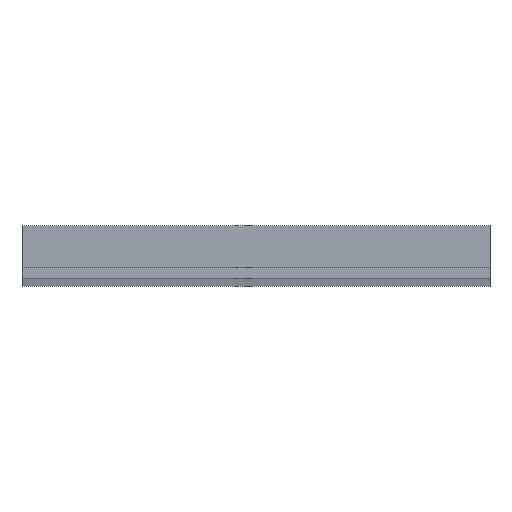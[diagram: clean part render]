
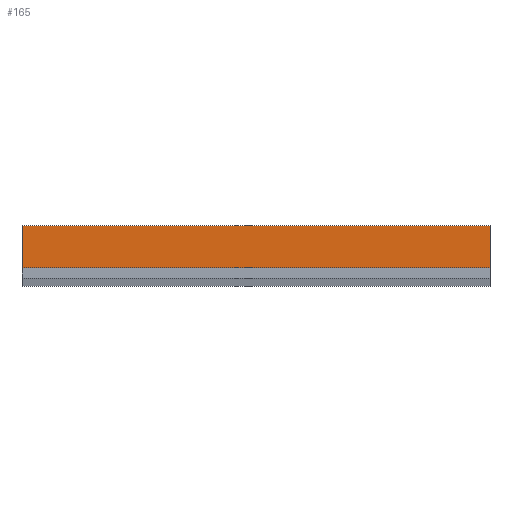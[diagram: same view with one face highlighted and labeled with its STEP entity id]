
A CAD part, top view. The second image highlights one B-rep face of the part: STEP entity #165.
In plain terms, the highlighted planar face has unit normal (0, 0, 1).
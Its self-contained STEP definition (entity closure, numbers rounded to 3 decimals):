
#29 = DIRECTION ( 'NONE',  ( -1., 0., 0. ) ) ;
#31 = VECTOR ( 'NONE', #29, 1000. ) ;
#65 = EDGE_LOOP ( 'NONE', ( #640, #1428, #322, #1342 ) ) ;
#72 = VERTEX_POINT ( 'NONE', #326 ) ;
#150 = DIRECTION ( 'NONE',  ( -1., 0., 0. ) ) ;
#165 = ADVANCED_FACE ( 'NONE', ( #229 ), #668, .F. ) ;
#198 = LINE ( 'NONE', #304, #1269 ) ;
#229 = FACE_OUTER_BOUND ( 'NONE', #65, .T. ) ;
#304 = CARTESIAN_POINT ( 'NONE',  ( 200., 13.066, 14.119 ) ) ;
#322 = ORIENTED_EDGE ( 'NONE', *, *, #378, .F. ) ;
#326 = CARTESIAN_POINT ( 'NONE',  ( 0., -4.934, 14.119 ) ) ;
#347 = LINE ( 'NONE', #568, #795 ) ;
#378 = EDGE_CURVE ( 'NONE', #463, #909, #198, .T. ) ;
#463 = VERTEX_POINT ( 'NONE', #784 ) ;
#475 = EDGE_CURVE ( 'NONE', #463, #966, #347, .T. ) ;
#506 = EDGE_CURVE ( 'NONE', #966, #72, #648, .T. ) ;
#561 = LINE ( 'NONE', #686, #31 ) ;
#568 = CARTESIAN_POINT ( 'NONE',  ( 200., 13.066, 14.119 ) ) ;
#640 = ORIENTED_EDGE ( 'NONE', *, *, #506, .T. ) ;
#648 = LINE ( 'NONE', #761, #720 ) ;
#668 = PLANE ( 'NONE',  #840 ) ;
#686 = CARTESIAN_POINT ( 'NONE',  ( 200., -4.934, 14.119 ) ) ;
#720 = VECTOR ( 'NONE', #1411, 1000. ) ;
#750 = DIRECTION ( 'NONE',  ( 0., -1., 0. ) ) ;
#761 = CARTESIAN_POINT ( 'NONE',  ( 0., 13.066, 14.119 ) ) ;
#784 = CARTESIAN_POINT ( 'NONE',  ( 200., 13.066, 14.119 ) ) ;
#795 = VECTOR ( 'NONE', #150, 1000. ) ;
#840 = AXIS2_PLACEMENT_3D ( 'NONE', #1263, #1250, #1353 ) ;
#909 = VERTEX_POINT ( 'NONE', #1106 ) ;
#922 = CARTESIAN_POINT ( 'NONE',  ( 0., 13.066, 14.119 ) ) ;
#966 = VERTEX_POINT ( 'NONE', #922 ) ;
#1106 = CARTESIAN_POINT ( 'NONE',  ( 200., -4.934, 14.119 ) ) ;
#1120 = EDGE_CURVE ( 'NONE', #909, #72, #561, .T. ) ;
#1250 = DIRECTION ( 'NONE',  ( 0., 0., -1. ) ) ;
#1263 = CARTESIAN_POINT ( 'NONE',  ( 200., 13.066, 14.119 ) ) ;
#1269 = VECTOR ( 'NONE', #750, 1000. ) ;
#1342 = ORIENTED_EDGE ( 'NONE', *, *, #475, .T. ) ;
#1353 = DIRECTION ( 'NONE',  ( -1., 0., 0. ) ) ;
#1411 = DIRECTION ( 'NONE',  ( 0., -1., 0. ) ) ;
#1428 = ORIENTED_EDGE ( 'NONE', *, *, #1120, .F. ) ;
